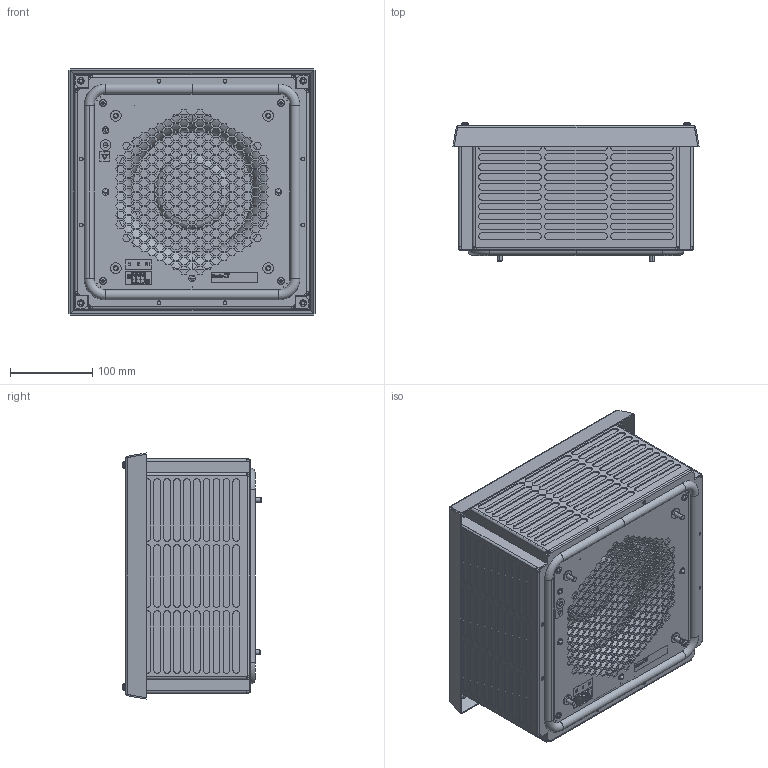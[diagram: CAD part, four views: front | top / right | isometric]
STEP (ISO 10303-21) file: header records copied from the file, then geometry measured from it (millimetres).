
FILE_DESCRIPTION (( 'STEP AP203' ), '1' );
FILE_NAME ('30478-100.STEP', '2022-09-29T09:46:24', ( '' ), ( '' ), 'SwSTEP 2.0', 'SolidWorks 2021', '' );
FILE_SCHEMA (( 'CONFIG_CONTROL_DESIGN' ));
Length unit declared in the file: millimetre
Products named in the file (41): Hex Nut Style 1 GradeAB_Pfannenberg GmbH_Hexagon Nut ISO 4032 - M4 - D - N; 30478-101; 020200600_Kabelbinder Ty23; Scheibe unverlierbar_020200000 Scheibe unverlierbar 4,3; 30478-100; 020140043 Blindnietmutter M6 rund geschlossen; self-clinching nut_pmm_PEM S-M4-0 ZI--N; 30478-031_Filtermatte 246x146mm; 30478-017_sealing; 30478-017; Schild Potenzialausgleich; 025416836 Wago 769-603-004-037; 085120020 Klemmenbezeichnung; 30478-015; self-clinching nut_pmm_PEM CLS-M4-1---N; 020142110_Flachstecker_; Einstr鰉d黶en_011225531  96358-2-4013; 020200660_Kabelbinder_mit_Steckanker; 020102025  PT.LIKO VZ 3,5x10 Kopf Ø5; 30478-013; 30478-012_sealing; 30478-012; 020200070_Washer_TL_A_4_VZ; 30478-016; 30478-011; 020500052 FH-M4x15; 085110010  Erdungssymbol Ø8; 225er-Dummy; Blindniet_020140037 4,0x9,5 Al-St; 30478-014_sealing; 11189-112_085001110 Typenschild 12x56 PFA; Flachkopfschraube mit Kreutzschlitz - DIN EN ISO 7045_ISO 7045 - M3 x 8 - Z --- 8NFlachkopfschraube Kreuzschlitz DIN EN ISO 7045; 11189-517; StudBoltMFS_Pfannenberg GmbH_DIN 976-2 -- MFS M6 x 30 --- N; Flachkopfschraube mit Kreutzschlitz - DIN EN ISO 7045_ISO 7045 - M4 x 18 - Z --- 18N; 025510030_Erdungsfahne 4-fach; 30478-014; Kontaktscheibe_020200235  M4  St vz
Assembly tree (84 placements, depth 5):
  30478-100
    30478-012
      30478-011
        30478-011
        020140043 Blindnietmutter M6 rund geschlossen  x5
        self-clinching nut_pmm_PEM S-M4-0 ZI--N  x4
        020142110_Flachstecker_
      30478-012_sealing
    30478-101
      30478-014
        30478-013
          30478-013
          self-clinching nut_pmm_PEM CLS-M4-1---N  x4
          025510030_Erdungsfahne 4-fach
          020500052 FH-M4x15
        30478-014_sealing
      30478-015
      Einstr鰉d黶en_011225531  96358-2-4013
      225er-Dummy
      Blindniet_020140037 4,0x9,5 Al-St  x7
      020102025  PT.LIKO VZ 3,5x10 Kopf Ø5  x2
      025416836 Wago 769-603-004-037
      020200070_Washer_TL_A_4_VZ  x4
      Flachkopfschraube mit Kreutzschlitz - DIN EN ISO 7045_ISO 7045 - M3 x 8 - Z --- 8NFlachkopfschraube Kreuzschlitz DIN EN ISO 7045  x4
      Kontaktscheibe_020200235  M4  St vz
      085110010  Erdungssymbol Ø8
      Hex Nut Style 1 GradeAB_Pfannenberg GmbH_Hexagon Nut ISO 4032 - M4 - D - N
      020200660_Kabelbinder_mit_Steckanker  x3
      020200600_Kabelbinder Ty23
    30478-017
      30478-016
        30478-016
        020142110_Flachstecker_
      30478-017_sealing
    30478-031_Filtermatte 246x146mm  x4
    StudBoltMFS_Pfannenberg GmbH_DIN 976-2 -- MFS M6 x 30 --- N  x4
    Flachkopfschraube mit Kreutzschlitz - DIN EN ISO 7045_ISO 7045 - M4 x 18 - Z --- 18N  x8
    Scheibe unverlierbar_020200000 Scheibe unverlierbar 4,3  x4
    085120020 Klemmenbezeichnung
    Schild Potenzialausgleich
    11189-112_085001110 Typenschild 12x56 PFA
    11189-517
    085110010  Erdungssymbol Ø8  x2
Bounding box: 298.82 x 169.5 x 298.82 mm (x, y, z)
Volume: 3863917.1 mm3; surface area: 1812497.4 mm2
Topology: 81 solids, 93 shells, 6622 faces, 18065 edges, 11696 vertices
Faces by surface type: plane 4660, cylinder 1093, bspline 443, cone 258, torus 92, sphere 76
Entity records: 180159 total; most frequent: CARTESIAN_POINT 44393, ORIENTED_EDGE 27942, DIRECTION 24787, EDGE_CURVE 13973, LINE 11305, VECTOR 11305, VERTEX_POINT 9117, AXIS2_PLACEMENT_3D 6741
